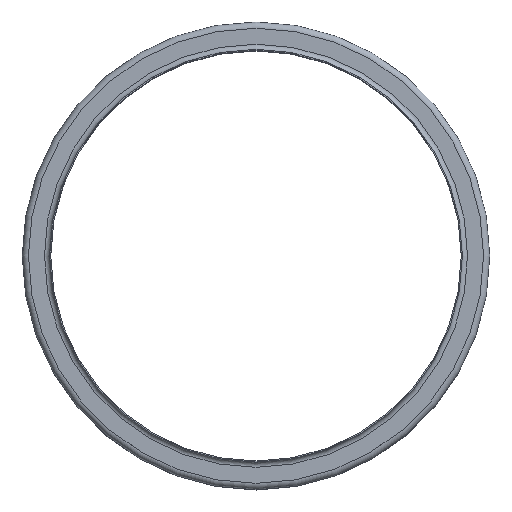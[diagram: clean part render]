
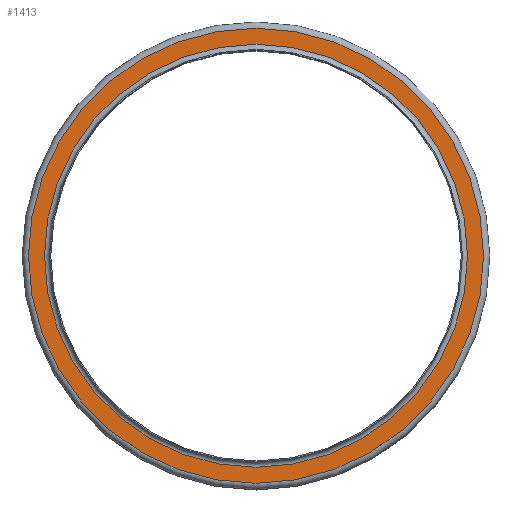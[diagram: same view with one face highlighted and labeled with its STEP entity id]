
A CAD part, top view. The second image highlights one B-rep face of the part: STEP entity #1413.
In plain terms, the highlighted planar face has unit normal (0, 0, 1).
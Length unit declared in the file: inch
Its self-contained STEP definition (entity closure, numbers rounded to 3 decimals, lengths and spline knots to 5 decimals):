
#127=FACE_BOUND('',#381,.T.);
#226=FACE_OUTER_BOUND('',#380,.T.);
#380=EDGE_LOOP('',(#1105));
#381=EDGE_LOOP('',(#1106));
#542=CIRCLE('',#1682,9.274);
#543=CIRCLE('',#1684,9.976);
#655=VERTEX_POINT('',#2578);
#656=VERTEX_POINT('',#2582);
#808=EDGE_CURVE('',#655,#655,#542,.T.);
#809=EDGE_CURVE('',#656,#656,#543,.T.);
#1105=ORIENTED_EDGE('',*,*,#809,.F.);
#1106=ORIENTED_EDGE('',*,*,#808,.T.);
#1203=PLANE('',#1683);
#1413=ADVANCED_FACE('',(#226,#127),#1203,.T.);
#1682=AXIS2_PLACEMENT_3D('',#2580,#2178,#2179);
#1683=AXIS2_PLACEMENT_3D('',#2581,#2180,#2181);
#1684=AXIS2_PLACEMENT_3D('',#2583,#2182,#2183);
#2178=DIRECTION('center_axis',(0.,0.,-1.));
#2179=DIRECTION('ref_axis',(1.,0.,0.));
#2180=DIRECTION('center_axis',(0.,0.,1.));
#2181=DIRECTION('ref_axis',(1.,0.,0.));
#2182=DIRECTION('center_axis',(0.,0.,-1.));
#2183=DIRECTION('ref_axis',(1.,0.,0.));
#2578=CARTESIAN_POINT('',(9.274,0.,-0.226));
#2580=CARTESIAN_POINT('Origin',(0.,0.,-0.226));
#2581=CARTESIAN_POINT('Origin',(0.,9.976,-0.226));
#2582=CARTESIAN_POINT('',(9.976,0.,-0.226));
#2583=CARTESIAN_POINT('Origin',(0.,0.,-0.226));
